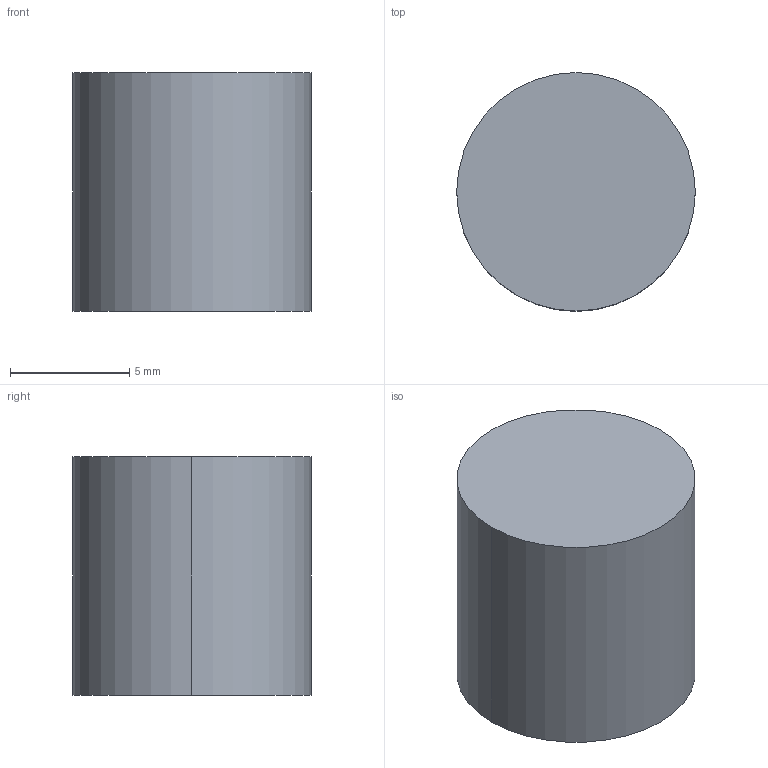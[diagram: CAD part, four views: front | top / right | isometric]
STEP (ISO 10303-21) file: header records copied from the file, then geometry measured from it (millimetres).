
FILE_DESCRIPTION (( 'STEP AP203' ), '1' );
FILE_NAME ('drp-100.STEP', '2021-10-21T07:52:37', ( '' ), ( '' ), 'SwSTEP 2.0', 'SolidWorks 2020', '' );
FILE_SCHEMA (( 'CONFIG_CONTROL_DESIGN' ));
Length unit declared in the file: millimetre
Products named in the file (1): drp-100
Bounding box: 10 x 10 x 10 mm (x, y, z)
Volume: 687.2 mm3; surface area: 549.8 mm2
Topology: 1 solids, 1 shells, 7 faces, 12 edges, 8 vertices
Faces by surface type: cylinder 4, plane 3
Entity records: 251 total; most frequent: DIRECTION 36, CARTESIAN_POINT 28, ORIENTED_EDGE 24, AXIS2_PLACEMENT_3D 16, EDGE_CURVE 12, CIRCLE 8, EDGE_LOOP 8, PERSON_AND_ORGANIZATION 8
